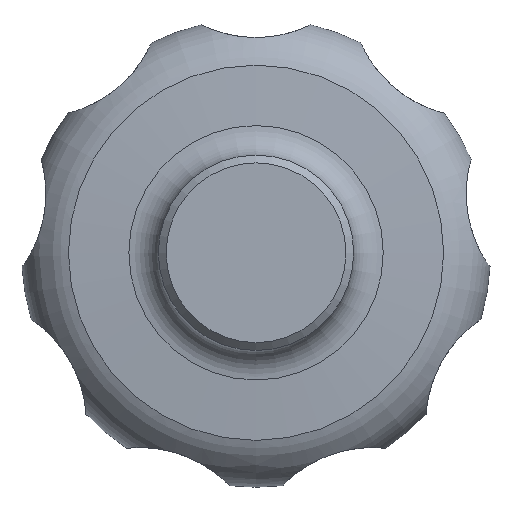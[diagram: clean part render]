
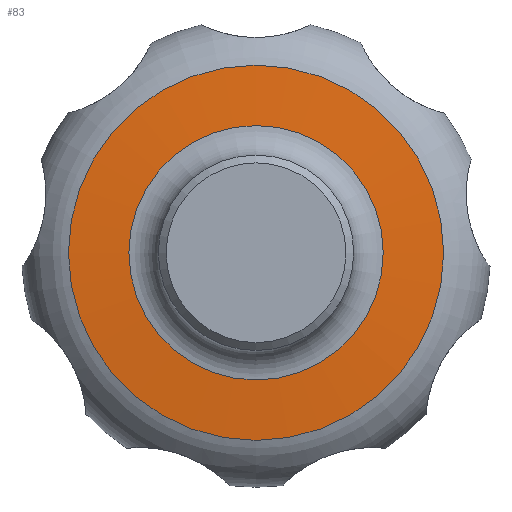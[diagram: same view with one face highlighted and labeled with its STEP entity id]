
A CAD part, front view. The second image highlights one B-rep face of the part: STEP entity #83.
In plain terms, the highlighted spherical face has radius 288.5 mm.
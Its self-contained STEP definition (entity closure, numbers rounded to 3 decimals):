
#83 = ADVANCED_FACE( '', ( #111, #112 ), #113, .T. );
#111 = FACE_OUTER_BOUND( '', #159, .T. );
#112 = FACE_OUTER_BOUND( '', #160, .T. );
#113 = SPHERICAL_SURFACE( '', #161, 288.5 );
#159 = EDGE_LOOP( '', ( #223 ) );
#160 = EDGE_LOOP( '', ( #224 ) );
#161 = AXIS2_PLACEMENT_3D( '', #225, #226, #227 );
#223 = ORIENTED_EDGE( '', *, *, #276, .T. );
#224 = ORIENTED_EDGE( '', *, *, #275, .F. );
#225 = CARTESIAN_POINT( '', ( 0., 306.5, 0. ) );
#226 = DIRECTION( '', ( 0., -1., 0. ) );
#227 = DIRECTION( '', ( 1., 0., 0. ) );
#275 = EDGE_CURVE( '', #299, #299, #300, .T. );
#276 = EDGE_CURVE( '', #301, #301, #302, .T. );
#299 = VERTEX_POINT( '', #665 );
#300 = CIRCLE( '', #666, 16.274 );
#301 = VERTEX_POINT( '', #667 );
#302 = CIRCLE( '', #668, 24. );
#665 = CARTESIAN_POINT( '', ( 0., 18.459, -16.274 ) );
#666 = AXIS2_PLACEMENT_3D( '', #1125, #1126, #1127 );
#667 = CARTESIAN_POINT( '', ( 0., 19., -24. ) );
#668 = AXIS2_PLACEMENT_3D( '', #1128, #1129, #1130 );
#1125 = CARTESIAN_POINT( '', ( 0., 18.459, 0. ) );
#1126 = DIRECTION( '', ( 0., -1., 0. ) );
#1127 = DIRECTION( '', ( 0., 0., -1. ) );
#1128 = CARTESIAN_POINT( '', ( 0., 19., 0. ) );
#1129 = DIRECTION( '', ( 0., -1., 0. ) );
#1130 = DIRECTION( '', ( 0., 0., -1. ) );
